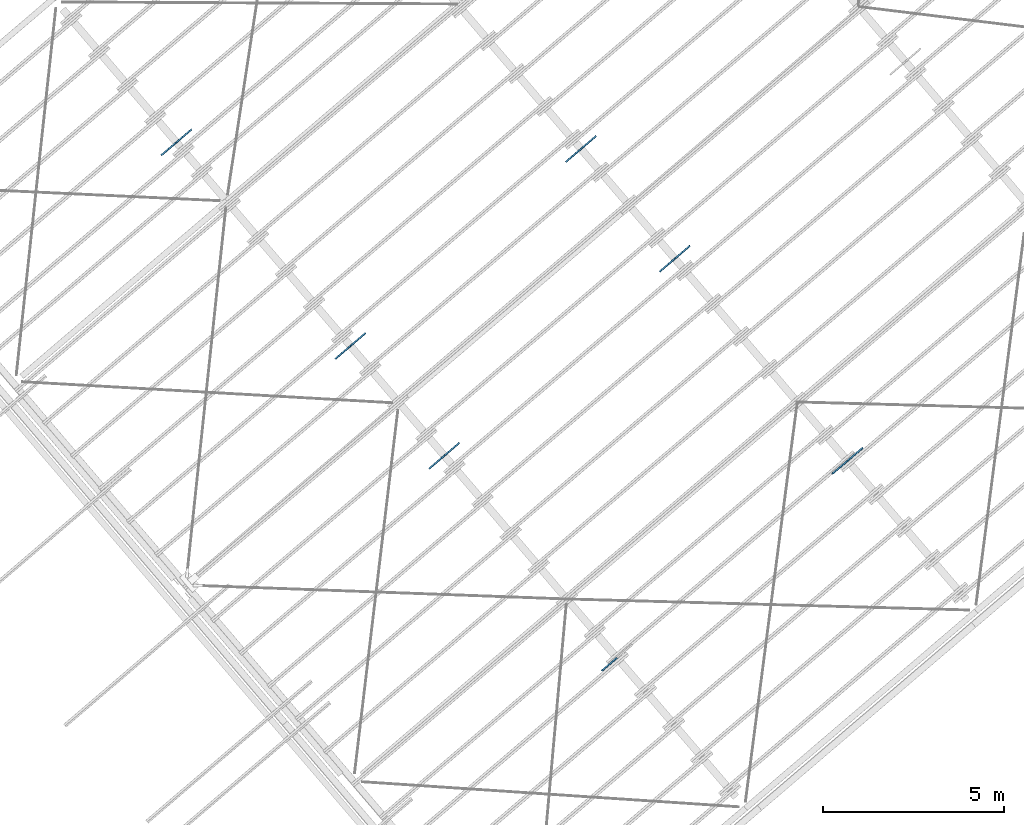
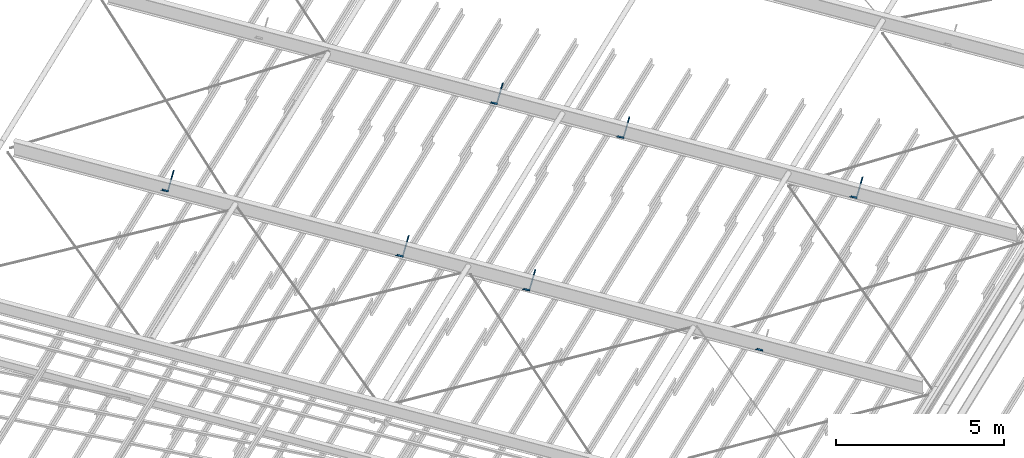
# One storey, part 22 of 25: 13 beams.
"""IFC2X3 building model written with IfcOpenShell, lengths in millimetres."""

from ifc_helpers import new_model, entity, si_unit, converted_unit, derived_unit, direction, frame, frame_2d, origin, place, context, subcontext, project, spatial, polyline, circle_curve, parameter, trimmed, segment, composite_curve, outline, extrude, clip, halfspace, type_object, element, save


model = new_model("IFC2X3")

# Units and contexts
model_context = context("Model", 3, precision=0.01, world=origin(), true_north=direction((6.123031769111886e-17, 1.0)))
body_context = subcontext(model_context, "Body", "Model", "MODEL_VIEW")
ifc_project = project(units=[si_unit("LENGTHUNIT", "METRE", prefix="MILLI"), si_unit("AREAUNIT", "SQUARE_METRE"), si_unit("VOLUMEUNIT", "CUBIC_METRE"), converted_unit("PLANEANGLEUNIT", "DEGREE", entity("IfcRatioMeasure", 0.017453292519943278), si_unit("PLANEANGLEUNIT", "RADIAN"), dimensions=[0, 0, 0, 0, 0, 0, 0]), si_unit("MASSUNIT", "GRAM", prefix="KILO"), derived_unit("MASSDENSITYUNIT", [(si_unit("MASSUNIT", "GRAM", prefix="KILO"), 1), (si_unit("LENGTHUNIT", "METRE"), -3)]), derived_unit("MOMENTOFINERTIAUNIT", [(si_unit("LENGTHUNIT", "METRE"), 4)]), si_unit("TIMEUNIT", "SECOND"), si_unit("FREQUENCYUNIT", "HERTZ"), si_unit("THERMODYNAMICTEMPERATUREUNIT", "DEGREE_CELSIUS"), derived_unit("THERMALTRANSMITTANCEUNIT", [(si_unit("MASSUNIT", "GRAM", prefix="KILO"), 1), (si_unit("THERMODYNAMICTEMPERATUREUNIT", "KELVIN"), -1), (si_unit("TIMEUNIT", "SECOND"), -3)]), derived_unit("VOLUMETRICFLOWRATEUNIT", [(si_unit("LENGTHUNIT", "METRE"), 3), (si_unit("TIMEUNIT", "SECOND"), -1)]), derived_unit("MASSFLOWRATEUNIT", [(si_unit("MASSUNIT", "GRAM", prefix="KILO"), 1), (si_unit("TIMEUNIT", "SECOND"), -1)]), derived_unit("ROTATIONALFREQUENCYUNIT", [(si_unit("TIMEUNIT", "SECOND"), -1)]), si_unit("ELECTRICCURRENTUNIT", "AMPERE"), si_unit("ELECTRICVOLTAGEUNIT", "VOLT"), si_unit("POWERUNIT", "WATT"), si_unit("FORCEUNIT", "NEWTON", prefix="KILO"), si_unit("ILLUMINANCEUNIT", "LUX"), si_unit("LUMINOUSFLUXUNIT", "LUMEN"), si_unit("LUMINOUSINTENSITYUNIT", "CANDELA"), derived_unit("USERDEFINED", [(si_unit("MASSUNIT", "GRAM", prefix="KILO"), -1), (si_unit("LENGTHUNIT", "METRE"), -2), (si_unit("TIMEUNIT", "SECOND"), 3), (si_unit("LUMINOUSFLUXUNIT", "LUMEN"), 1)]), derived_unit("SOUNDPOWERUNIT", [(si_unit("MASSUNIT", "GRAM", prefix="KILO"), 1), (si_unit("LENGTHUNIT", "METRE"), 2), (si_unit("TIMEUNIT", "SECOND"), -3)]), derived_unit("LINEARVELOCITYUNIT", [(si_unit("LENGTHUNIT", "METRE"), 1), (si_unit("TIMEUNIT", "SECOND"), -1)]), si_unit("PRESSUREUNIT", "PASCAL"), derived_unit("USERDEFINED", [(si_unit("LENGTHUNIT", "METRE"), -2), (si_unit("MASSUNIT", "GRAM", prefix="KILO"), 1), (si_unit("TIMEUNIT", "SECOND"), -2)]), derived_unit("LINEARFORCEUNIT", [(si_unit("MASSUNIT", "GRAM", prefix="KILO"), 1), (si_unit("LENGTHUNIT", "METRE"), 1), (si_unit("TIMEUNIT", "SECOND"), -2), (si_unit("LENGTHUNIT", "METRE"), -1)]), derived_unit("PLANARFORCEUNIT", [(si_unit("MASSUNIT", "GRAM", prefix="KILO"), 1), (si_unit("LENGTHUNIT", "METRE"), 1), (si_unit("TIMEUNIT", "SECOND"), -2), (si_unit("LENGTHUNIT", "METRE"), -2)])], contexts=[model_context])

# Site, building, storey
site_placement = place(None, frame((962.4174930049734, -6014.433753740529, 0.0), z_axis=(0.0, 0.0, 1.0), x_axis=(0.7601792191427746, 0.649713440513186, 0.0)))
site = spatial("IfcSite", under=ifc_project, at=site_placement, Name="Default", CompositionType="ELEMENT")
building_placement = place(site_placement, origin())
building = spatial("IfcBuilding", under=site, at=building_placement, CompositionType="ELEMENT")
storey_placement = place(building_placement, frame((0.0, 0.0, 9200.0)))
storey = spatial("IfcBuildingStorey", under=building, at=storey_placement, Name="TOP OF CEILING", CompositionType="ELEMENT", Elevation=9200.000000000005)

# Beams
beam_type = type_object("IfcBeamType", Name="ADSK_AU_EA-Equal Angles (AS 3679_1):50x50x5EA", PredefinedType="NOTDEFINED")
beam_1_placement = place(storey_placement, frame((161811.86076807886, -20517.92808212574, 2502.2460975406), z_axis=(0.6018150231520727, 0.0, 0.7986355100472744), x_axis=(0.7986355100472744, 0.0, -0.6018150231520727)))
element("IfcBeam", 1, at=beam_1_placement, inside=storey, type_object=beam_type, Name="ADSK_AU_EA-Equal Angles (AS 3679_1):50x50x5EA", ObjectType="ADSK_AU_EA-Equal Angles (AS 3679_1):50x50x5EA", context=body_context, shape_type="SweptSolid", body=[
    clip(extrude(outline(composite_curve([segment(polyline([(-31.11111111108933, -18.88888888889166), (18.888888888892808, -18.888888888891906)]), True, "CONTINUOUS"), segment(polyline([(18.88888888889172, -18.888888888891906), (18.888888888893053, 31.111111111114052)]), True, "CONTINUOUS"), segment(polyline([(18.888888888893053, 31.111111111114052), (16.888888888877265, 31.11111111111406)]), True, "CONTINUOUS"), segment(trimmed(circle_curve(frame_2d((16.88888888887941, 28.111111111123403), x_axis=(0.0, 1.0)), 2.9999999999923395), [parameter(0.0)], [parameter(90.00000000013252)], True, "PARAMETER"), True, "CONTINUOUS"), segment(polyline([(13.888888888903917, 28.11111111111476), (13.888888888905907, -7.888888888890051)]), True, "CONTINUOUS"), segment(trimmed(circle_curve(frame_2d((7.888888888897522, -7.88888888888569), x_axis=(1.0, 0.0)), 6.00000000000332), [parameter(270.0000000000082)], [parameter(0.0)], True, "PARAMETER"), False, "CONTINUOUS"), segment(polyline([(7.888888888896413, -13.888888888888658), (-28.111111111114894, -13.88888888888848)]), True, "CONTINUOUS"), segment(trimmed(circle_curve(frame_2d((-28.111111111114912, -16.8888888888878), x_axis=(0.0, 1.0)), 2.9999999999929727), [parameter(0.0)], [parameter(90.00000000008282)], True, "PARAMETER"), True, "CONTINUOUS"), segment(polyline([(-31.111111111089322, -16.888888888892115), (-31.11111111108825, -18.88888888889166)]), True, "CONTINUOUS")], self_intersect=False)), frame((0.0, 4.9888888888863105, -31.111111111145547), z_axis=(1.0, 0.0, 0.0), x_axis=(0.0, 0.0, -1.0)), (0.0, 0.0, 1.0), 697.6777025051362), halfspace(frame((697.6777025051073, 0.0, -50.0), z_axis=(0.7986355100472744, 0.0, 0.6018150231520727), x_axis=(0.0, -1.0, 0.0)), False)),
])
beam_2_placement = place(storey_placement, frame((171266.05964134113, -20517.928082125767, 2502.2460975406), z_axis=(-0.6018150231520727, 0.0, 0.7986355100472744), x_axis=(-0.7986355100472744, 0.0, -0.6018150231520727)))
element("IfcBeam", 2, at=beam_2_placement, inside=storey, type_object=beam_type, Name="ADSK_AU_EA-Equal Angles (AS 3679_1):50x50x5EA", ObjectType="ADSK_AU_EA-Equal Angles (AS 3679_1):50x50x5EA", context=body_context, shape_type="SweptSolid", body=[
    clip(extrude(outline(composite_curve([segment(polyline([(16.88888888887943, -31.11111111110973), (18.888888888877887, -31.11111111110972)]), True, "CONTINUOUS"), segment(polyline([(18.888888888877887, -31.11111111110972), (18.88888888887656, 18.88888888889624)]), True, "CONTINUOUS"), segment(polyline([(18.88888888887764, 18.88888888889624), (-31.111111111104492, 18.888888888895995)]), True, "CONTINUOUS"), segment(polyline([(-31.11111111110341, 18.888888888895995), (-31.111111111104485, 16.88888888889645)]), True, "CONTINUOUS"), segment(trimmed(circle_curve(frame_2d((-28.111111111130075, 16.88888888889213), x_axis=(-1.0, 0.0)), 2.9999999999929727), [parameter(0.0)], [parameter(90.00000000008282)], True, "PARAMETER"), True, "CONTINUOUS"), segment(polyline([(-28.111111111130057, 13.888888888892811), (7.888888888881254, 13.88888888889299)]), True, "CONTINUOUS"), segment(trimmed(circle_curve(frame_2d((7.888888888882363, 7.888888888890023), x_axis=(0.0, 1.0)), 6.00000000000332), [parameter(270.0000000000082)], [parameter(0.0)], True, "PARAMETER"), False, "CONTINUOUS"), segment(polyline([(13.888888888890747, 7.888888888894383), (13.888888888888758, -28.11111111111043)]), True, "CONTINUOUS"), segment(trimmed(circle_curve(frame_2d((16.888888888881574, -28.111111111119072), x_axis=(-1.0, 0.0)), 2.9999999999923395), [parameter(0.0)], [parameter(90.00000000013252)], True, "PARAMETER"), True, "CONTINUOUS")], self_intersect=False)), frame((0.0, -4.988888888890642, -31.111111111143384), z_axis=(1.0, 0.0, 0.0), x_axis=(0.0, 0.0, -1.0)), (0.0, 0.0, 1.0), 697.6777025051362), halfspace(frame((697.67770250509, 0.0, -50.0), z_axis=(0.7986355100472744, 0.0, 0.6018150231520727), x_axis=(0.0, -1.0, 0.0)), False)),
])
beam_3_placement = place(storey_placement, frame((170211.8607680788, -20517.928082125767, 2502.2460975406), z_axis=(0.6018150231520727, 0.0, 0.7986355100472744), x_axis=(0.7986355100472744, 0.0, -0.6018150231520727)))
element("IfcBeam", 3, at=beam_3_placement, inside=storey, type_object=beam_type, Name="ADSK_AU_EA-Equal Angles (AS 3679_1):50x50x5EA", ObjectType="ADSK_AU_EA-Equal Angles (AS 3679_1):50x50x5EA", context=body_context, shape_type="SweptSolid", body=[
    clip(extrude(outline(composite_curve([segment(polyline([(-31.111111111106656, -18.888888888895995), (18.888888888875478, -18.88888888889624)]), True, "CONTINUOUS"), segment(polyline([(18.888888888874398, -18.88888888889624), (18.888888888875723, 31.11111111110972)]), True, "CONTINUOUS"), segment(polyline([(18.888888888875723, 31.11111111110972), (16.888888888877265, 31.11111111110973)]), True, "CONTINUOUS"), segment(trimmed(circle_curve(frame_2d((16.88888888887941, 28.111111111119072), x_axis=(0.0, 1.0)), 2.9999999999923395), [parameter(0.0)], [parameter(90.00000000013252)], True, "PARAMETER"), True, "CONTINUOUS"), segment(polyline([(13.888888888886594, 28.11111111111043), (13.888888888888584, -7.888888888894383)]), True, "CONTINUOUS"), segment(trimmed(circle_curve(frame_2d((7.888888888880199, -7.888888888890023), x_axis=(1.0, 0.0)), 6.00000000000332), [parameter(270.0000000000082)], [parameter(0.0)], True, "PARAMETER"), False, "CONTINUOUS"), segment(polyline([(7.88888888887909, -13.88888888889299), (-28.11111111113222, -13.888888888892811)]), True, "CONTINUOUS"), segment(trimmed(circle_curve(frame_2d((-28.11111111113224, -16.88888888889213), x_axis=(0.0, 1.0)), 2.9999999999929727), [parameter(0.0)], [parameter(90.00000000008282)], True, "PARAMETER"), True, "CONTINUOUS"), segment(polyline([(-31.11111111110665, -16.88888888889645), (-31.111111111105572, -18.888888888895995)]), True, "CONTINUOUS")], self_intersect=False)), frame((0.0, 4.988888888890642, -31.111111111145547), z_axis=(1.0, 0.0, 0.0), x_axis=(0.0, 0.0, -1.0)), (0.0, 0.0, 1.0), 697.6777025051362), halfspace(frame((697.6777025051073, 0.0, -50.0), z_axis=(0.7986355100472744, 0.0, 0.6018150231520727), x_axis=(0.0, -1.0, 0.0)), False)),
])
beam_4_placement = place(storey_placement, frame((162866.0596413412, -1736.2280821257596, 3902.2460975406), z_axis=(-0.6018150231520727, 0.0, 0.7986355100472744), x_axis=(-0.7986355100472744, 0.0, -0.6018150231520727)))
element("IfcBeam", 4, at=beam_4_placement, inside=storey, type_object=beam_type, Name="ADSK_AU_EA-Equal Angles (AS 3679_1):50x50x5EA", ObjectType="ADSK_AU_EA-Equal Angles (AS 3679_1):50x50x5EA", context=body_context, shape_type="SweptSolid", body=[
    clip(extrude(outline(composite_curve([segment(polyline([(16.88888888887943, -31.111111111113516), (18.888888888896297, -31.11111111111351)]), True, "CONTINUOUS"), segment(polyline([(18.888888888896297, -31.11111111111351), (18.888888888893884, 18.888888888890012)]), True, "CONTINUOUS"), segment(polyline([(18.88888888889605, 18.888888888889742), (-31.111111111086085, 18.888888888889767)]), True, "CONTINUOUS"), segment(polyline([(-31.111111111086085, 18.888888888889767), (-31.11111111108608, 16.888888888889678)]), True, "CONTINUOUS"), segment(trimmed(circle_curve(frame_2d((-28.11111111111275, 16.888888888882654), x_axis=(-1.0, 0.0)), 2.999999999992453), [parameter(0.0)], [parameter(90.00000000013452)], True, "PARAMETER"), True, "CONTINUOUS"), segment(polyline([(-28.11111111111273, 13.888888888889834), (7.888888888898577, 13.888888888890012)]), True, "CONTINUOUS"), segment(trimmed(circle_curve(frame_2d((7.888888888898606, 7.8888888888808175), x_axis=(0.0, 1.0)), 6.000000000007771), [parameter(270.0000000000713)], [parameter(0.0)], True, "PARAMETER"), False, "CONTINUOUS"), segment(polyline([(13.888888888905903, 7.888888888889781), (13.88888888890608, -28.111111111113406)]), True, "CONTINUOUS"), segment(trimmed(circle_curve(frame_2d((16.888888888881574, -28.11111111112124), x_axis=(-1.0, 0.0)), 2.9999999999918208), [parameter(0.0)], [parameter(90.000000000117)], True, "PARAMETER"), True, "CONTINUOUS")], self_intersect=False)), frame((0.0, -4.988888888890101, -31.111111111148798), z_axis=(1.0, 0.0, 0.0), x_axis=(0.0, 0.0, -1.0)), (0.0, 0.0, 1.0), 697.6777025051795), halfspace(frame((697.6777025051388, 0.0, -50.0), z_axis=(0.7986355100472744, 0.0, 0.6018150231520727), x_axis=(0.0, -1.0, 0.0)), False)),
])
beam_5_placement = place(storey_placement, frame((161811.86076807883, -1736.2280821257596, 3902.2460975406), z_axis=(0.6018150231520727, 0.0, 0.7986355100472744), x_axis=(0.7986355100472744, 0.0, -0.6018150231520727)))
element("IfcBeam", 5, at=beam_5_placement, inside=storey, type_object=beam_type, Name="ADSK_AU_EA-Equal Angles (AS 3679_1):50x50x5EA", ObjectType="ADSK_AU_EA-Equal Angles (AS 3679_1):50x50x5EA", context=body_context, shape_type="SweptSolid", body=[
    clip(extrude(outline(composite_curve([segment(polyline([(-31.111111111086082, -18.888888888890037), (18.888888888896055, -18.888888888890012)]), True, "CONTINUOUS"), segment(polyline([(18.888888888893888, -18.888888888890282), (18.8888888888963, 31.11111111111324)]), True, "CONTINUOUS"), segment(polyline([(18.8888888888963, 31.11111111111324), (16.888888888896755, 31.111111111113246)]), True, "CONTINUOUS"), segment(trimmed(circle_curve(frame_2d((16.8888888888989, 28.11111111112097), x_axis=(0.0, 1.0)), 2.9999999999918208), [parameter(0.0)], [parameter(90.000000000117)], True, "PARAMETER"), True, "CONTINUOUS"), segment(polyline([(13.888888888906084, 28.111111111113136), (13.888888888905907, -7.888888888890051)]), True, "CONTINUOUS"), segment(trimmed(circle_curve(frame_2d((7.8888888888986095, -7.8888888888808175), x_axis=(1.0, 0.0)), 6.000000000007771), [parameter(270.0000000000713)], [parameter(0.0)], True, "PARAMETER"), False, "CONTINUOUS"), segment(polyline([(7.88888888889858, -13.888888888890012), (-28.11111111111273, -13.888888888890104)]), True, "CONTINUOUS"), segment(trimmed(circle_curve(frame_2d((-28.11111111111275, -16.888888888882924), x_axis=(0.0, 1.0)), 2.999999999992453), [parameter(0.0)], [parameter(90.00000000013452)], True, "PARAMETER"), True, "CONTINUOUS"), segment(polyline([(-31.111111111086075, -16.888888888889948), (-31.111111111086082, -18.888888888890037)]), True, "CONTINUOUS")], self_intersect=False)), frame((0.0, 4.988888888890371, -31.11111111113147), z_axis=(1.0, 0.0, 0.0), x_axis=(0.0, 0.0, -1.0)), (0.0, 0.0, 1.0), 697.6777025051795), halfspace(frame((697.6777025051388, 0.0, -50.0), z_axis=(0.7986355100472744, 0.0, 0.6018150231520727), x_axis=(0.0, -1.0, 0.0)), False)),
])
beam_6_placement = place(storey_placement, frame((171266.05964134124, -9155.303082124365, 3263.315060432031), z_axis=(-0.6018150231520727, 0.0, 0.7986355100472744), x_axis=(-0.7986355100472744, 0.0, -0.6018150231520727)))
element("IfcBeam", 6, at=beam_6_placement, inside=storey, type_object=beam_type, Name="ADSK_AU_EA-Equal Angles (AS 3679_1):50x50x5EA", ObjectType="ADSK_AU_EA-Equal Angles (AS 3679_1):50x50x5EA", context=body_context, shape_type="SweptSolid", body=[
    clip(extrude(outline(composite_curve([segment(polyline([(16.88888888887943, -31.111111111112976), (18.88888888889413, -31.11111111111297)]), True, "CONTINUOUS"), segment(polyline([(18.88888888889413, -31.11111111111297), (18.888888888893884, 18.888888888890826)]), True, "CONTINUOUS"), segment(polyline([(18.888888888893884, 18.888888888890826), (-31.11111111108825, 18.88888888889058)]), True, "CONTINUOUS"), segment(polyline([(-31.111111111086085, 18.88888888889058), (-31.111111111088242, 16.888888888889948)]), True, "CONTINUOUS"), segment(trimmed(circle_curve(frame_2d((-28.11111111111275, 16.888888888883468), x_axis=(-1.0, 0.0)), 2.999999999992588), [parameter(0.0)], [parameter(90.00000000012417)], True, "PARAMETER"), True, "CONTINUOUS"), segment(polyline([(-28.11111111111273, 13.888888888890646), (7.888888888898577, 13.888888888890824)]), True, "CONTINUOUS"), segment(trimmed(circle_curve(frame_2d((7.888888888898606, 7.888888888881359), x_axis=(0.0, 1.0)), 6.000000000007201), [parameter(270.0000000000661)], [parameter(0.0)], True, "PARAMETER"), False, "CONTINUOUS"), segment(polyline([(13.888888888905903, 7.888888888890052), (13.88888888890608, -28.111111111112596)]), True, "CONTINUOUS"), segment(trimmed(circle_curve(frame_2d((16.888888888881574, -28.11111111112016), x_axis=(-1.0, 0.0)), 2.9999999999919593), [parameter(0.0)], [parameter(90.00000000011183)], True, "PARAMETER"), True, "CONTINUOUS")], self_intersect=False)), frame((0.0, -4.988888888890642, -31.11111111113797), z_axis=(1.0, 0.0, 0.0), x_axis=(0.0, 0.0, -1.0)), (0.0, 0.0, 1.0), 697.6777025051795), halfspace(frame((697.6777025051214, 0.0, -50.0), z_axis=(0.7986355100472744, 0.0, 0.6018150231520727), x_axis=(0.0, -1.0, 0.0)), False)),
])
beam_7_placement = place(storey_placement, frame((170211.86076807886, -9155.303082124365, 3263.315060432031), z_axis=(0.6018150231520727, 0.0, 0.7986355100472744), x_axis=(0.7986355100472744, 0.0, -0.6018150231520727)))
element("IfcBeam", 7, at=beam_7_placement, inside=storey, type_object=beam_type, Name="ADSK_AU_EA-Equal Angles (AS 3679_1):50x50x5EA", ObjectType="ADSK_AU_EA-Equal Angles (AS 3679_1):50x50x5EA", context=body_context, shape_type="SweptSolid", body=[
    clip(extrude(outline(composite_curve([segment(polyline([(-31.111111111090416, -18.88888888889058), (18.88888888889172, -18.88888888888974)]), True, "CONTINUOUS"), segment(polyline([(18.88888888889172, -18.88888888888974), (18.888888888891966, 31.111111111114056)]), True, "CONTINUOUS"), segment(polyline([(18.888888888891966, 31.111111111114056), (16.888888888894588, 31.111111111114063)]), True, "CONTINUOUS"), segment(trimmed(circle_curve(frame_2d((16.888888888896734, 28.11111111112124), x_axis=(0.0, 1.0)), 2.9999999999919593), [parameter(0.0)], [parameter(90.00000000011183)], True, "PARAMETER"), True, "CONTINUOUS"), segment(polyline([(13.888888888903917, 28.111111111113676), (13.88888888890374, -7.888888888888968)]), True, "CONTINUOUS"), segment(trimmed(circle_curve(frame_2d((7.888888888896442, -7.888888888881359), x_axis=(1.0, 0.0)), 6.000000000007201), [parameter(270.0000000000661)], [parameter(0.0)], True, "PARAMETER"), False, "CONTINUOUS"), segment(polyline([(7.888888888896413, -13.888888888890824), (-28.111111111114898, -13.888888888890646)]), True, "CONTINUOUS"), segment(trimmed(circle_curve(frame_2d((-28.111111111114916, -16.888888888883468), x_axis=(0.0, 1.0)), 2.999999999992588), [parameter(0.0)], [parameter(90.00000000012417)], True, "PARAMETER"), True, "CONTINUOUS"), segment(polyline([(-31.11111111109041, -16.888888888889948), (-31.11111111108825, -18.88888888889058)]), True, "CONTINUOUS")], self_intersect=False)), frame((0.0, 4.988888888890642, -31.11111111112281), z_axis=(1.0, 0.0, 0.0), x_axis=(0.0, 0.0, -1.0)), (0.0, 0.0, 1.0), 697.6777025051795), halfspace(frame((697.6777025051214, 0.0, -50.0), z_axis=(0.7986355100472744, 0.0, 0.6018150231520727), x_axis=(0.0, -1.0, 0.0)), False)),
])
beam_8_placement = place(storey_placement, frame((171266.05964134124, -13155.303082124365, 2963.3150604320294), z_axis=(-0.6018150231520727, 0.0, 0.7986355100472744), x_axis=(-0.7986355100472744, 0.0, -0.6018150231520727)))
element("IfcBeam", 8, at=beam_8_placement, inside=storey, type_object=beam_type, Name="ADSK_AU_EA-Equal Angles (AS 3679_1):50x50x5EA", ObjectType="ADSK_AU_EA-Equal Angles (AS 3679_1):50x50x5EA", context=body_context, shape_type="SweptSolid", body=[
    clip(extrude(outline(composite_curve([segment(polyline([(16.888888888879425, -31.11111111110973), (18.888888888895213, -31.11111111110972)]), True, "CONTINUOUS"), segment(polyline([(18.888888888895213, -31.11111111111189), (18.8888888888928, 18.888888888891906)]), True, "CONTINUOUS"), segment(polyline([(18.888888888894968, 18.888888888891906), (-31.11111111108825, 18.88888888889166)]), True, "CONTINUOUS"), segment(polyline([(-31.111111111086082, 18.88888888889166), (-31.111111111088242, 16.888888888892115)]), True, "CONTINUOUS"), segment(trimmed(circle_curve(frame_2d((-28.11111111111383, 16.888888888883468), x_axis=(-1.0, 0.0)), 2.9999999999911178), [parameter(0.0)], [parameter(90.00000000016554)], True, "PARAMETER"), True, "CONTINUOUS"), segment(polyline([(-28.11111111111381, 13.888888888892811), (7.888888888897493, 13.88888888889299)]), True, "CONTINUOUS"), segment(trimmed(circle_curve(frame_2d((7.888888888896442, 7.888888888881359), x_axis=(0.0, 1.0)), 6.000000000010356), [parameter(270.00000000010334)], [parameter(0.0)], True, "PARAMETER"), False, "CONTINUOUS"), segment(polyline([(13.888888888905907, 7.888888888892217), (13.888888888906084, -28.11111111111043)]), True, "CONTINUOUS"), segment(trimmed(circle_curve(frame_2d((16.88888888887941, -28.111111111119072), x_axis=(-1.0, 0.0)), 2.9999999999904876), [parameter(0.0)], [parameter(90.00000000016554)], True, "PARAMETER"), True, "CONTINUOUS")], self_intersect=False)), frame((0.0, -4.9888888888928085, -31.111111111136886), z_axis=(1.0, 0.0, 0.0), x_axis=(0.0, 0.0, -1.0)), (0.0, 0.0, 1.0), 697.6777025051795), halfspace(frame((697.6777025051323, 0.0, -50.0), z_axis=(0.7986355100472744, 0.0, 0.6018150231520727), x_axis=(0.0, -1.0, 0.0)), False)),
])
beam_9_placement = place(storey_placement, frame((170211.86076807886, -13155.303082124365, 2963.3150604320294), z_axis=(0.6018150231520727, 0.0, 0.7986355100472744), x_axis=(0.7986355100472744, 0.0, -0.6018150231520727)))
element("IfcBeam", 9, at=beam_9_placement, inside=storey, type_object=beam_type, Name="ADSK_AU_EA-Equal Angles (AS 3679_1):50x50x5EA", ObjectType="ADSK_AU_EA-Equal Angles (AS 3679_1):50x50x5EA", context=body_context, shape_type="SweptSolid", body=[
    clip(extrude(outline(composite_curve([segment(polyline([(-31.111111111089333, -18.88888888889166), (18.888888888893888, -18.888888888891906)]), True, "CONTINUOUS"), segment(polyline([(18.88888888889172, -18.888888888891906), (18.888888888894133, 31.11111111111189)]), True, "CONTINUOUS"), segment(polyline([(18.888888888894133, 31.11111111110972), (16.888888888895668, 31.11111111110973)]), True, "CONTINUOUS"), segment(trimmed(circle_curve(frame_2d((16.888888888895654, 28.111111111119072), x_axis=(0.0, 1.0)), 2.9999999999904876), [parameter(0.0)], [parameter(90.00000000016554)], True, "PARAMETER"), True, "CONTINUOUS"), segment(polyline([(13.888888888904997, 28.11111111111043), (13.88888888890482, -7.888888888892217)]), True, "CONTINUOUS"), segment(trimmed(circle_curve(frame_2d((7.888888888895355, -7.888888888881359), x_axis=(1.0, 0.0)), 6.000000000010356), [parameter(270.00000000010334)], [parameter(0.0)], True, "PARAMETER"), False, "CONTINUOUS"), segment(polyline([(7.888888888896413, -13.88888888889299), (-28.111111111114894, -13.888888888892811)]), True, "CONTINUOUS"), segment(trimmed(circle_curve(frame_2d((-28.111111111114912, -16.888888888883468), x_axis=(0.0, 1.0)), 2.9999999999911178), [parameter(0.0)], [parameter(90.00000000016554)], True, "PARAMETER"), True, "CONTINUOUS"), segment(polyline([(-31.111111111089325, -16.888888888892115), (-31.111111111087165, -18.88888888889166)]), True, "CONTINUOUS")], self_intersect=False)), frame((0.0, 4.9888888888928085, -31.111111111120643), z_axis=(1.0, 0.0, 0.0), x_axis=(0.0, 0.0, -1.0)), (0.0, 0.0, 1.0), 697.6777025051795), halfspace(frame((697.6777025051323, 0.0, -50.0), z_axis=(0.7986355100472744, 0.0, 0.6018150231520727), x_axis=(0.0, -1.0, 0.0)), False)),
])
beam_10_placement = place(storey_placement, frame((162866.05964134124, -9155.303082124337, 3263.315060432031), z_axis=(-0.6018150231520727, 0.0, 0.7986355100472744), x_axis=(-0.7986355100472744, 0.0, -0.6018150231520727)))
element("IfcBeam", 10, at=beam_10_placement, inside=storey, type_object=beam_type, Name="ADSK_AU_EA-Equal Angles (AS 3679_1):50x50x5EA", ObjectType="ADSK_AU_EA-Equal Angles (AS 3679_1):50x50x5EA", context=body_context, shape_type="SweptSolid", body=[
    clip(extrude(outline(composite_curve([segment(polyline([(16.888888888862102, -31.111111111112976), (18.88888888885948, -31.11111111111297)]), True, "CONTINUOUS"), segment(polyline([(18.88888888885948, -31.11111111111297), (18.888888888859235, 18.888888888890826)]), True, "CONTINUOUS"), segment(polyline([(18.888888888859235, 18.888888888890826), (-31.111111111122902, 18.88888888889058)]), True, "CONTINUOUS"), segment(polyline([(-31.111111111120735, 18.88888888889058), (-31.111111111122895, 16.888888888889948)]), True, "CONTINUOUS"), segment(trimmed(circle_curve(frame_2d((-28.1111111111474, 16.888888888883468), x_axis=(-1.0, 0.0)), 2.999999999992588), [parameter(0.0)], [parameter(90.00000000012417)], True, "PARAMETER"), True, "CONTINUOUS"), segment(polyline([(-28.111111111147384, 13.888888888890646), (7.888888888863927, 13.888888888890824)]), True, "CONTINUOUS"), segment(trimmed(circle_curve(frame_2d((7.888888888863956, 7.888888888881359), x_axis=(0.0, 1.0)), 6.000000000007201), [parameter(270.0000000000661)], [parameter(0.0)], True, "PARAMETER"), False, "CONTINUOUS"), segment(polyline([(13.888888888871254, 7.888888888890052), (13.888888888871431, -28.111111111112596)]), True, "CONTINUOUS"), segment(trimmed(circle_curve(frame_2d((16.888888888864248, -28.11111111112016), x_axis=(-1.0, 0.0)), 2.9999999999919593), [parameter(0.0)], [parameter(90.00000000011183)], True, "PARAMETER"), True, "CONTINUOUS")], self_intersect=False)), frame((0.0, -4.988888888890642, -31.111111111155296), z_axis=(1.0, 0.0, 0.0), x_axis=(0.0, 0.0, -1.0)), (0.0, 0.0, 1.0), 697.6777025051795), halfspace(frame((697.6777025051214, 0.0, -50.0), z_axis=(0.7986355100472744, 0.0, 0.6018150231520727), x_axis=(0.0, -1.0, 0.0)), False)),
])
beam_11_placement = place(storey_placement, frame((161811.86076807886, -9155.303082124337, 3263.315060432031), z_axis=(0.6018150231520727, 0.0, 0.7986355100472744), x_axis=(0.7986355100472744, 0.0, -0.6018150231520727)))
element("IfcBeam", 11, at=beam_11_placement, inside=storey, type_object=beam_type, Name="ADSK_AU_EA-Equal Angles (AS 3679_1):50x50x5EA", ObjectType="ADSK_AU_EA-Equal Angles (AS 3679_1):50x50x5EA", context=body_context, shape_type="SweptSolid", body=[
    clip(extrude(outline(composite_curve([segment(polyline([(-31.111111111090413, -18.88888888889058), (18.88888888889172, -18.888888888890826)]), True, "CONTINUOUS"), segment(polyline([(18.88888888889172, -18.888888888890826), (18.888888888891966, 31.11111111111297)]), True, "CONTINUOUS"), segment(polyline([(18.888888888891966, 31.11111111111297), (16.888888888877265, 31.111111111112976)]), True, "CONTINUOUS"), segment(trimmed(circle_curve(frame_2d((16.88888888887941, 28.11111111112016), x_axis=(0.0, 1.0)), 2.9999999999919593), [parameter(0.0)], [parameter(90.00000000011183)], True, "PARAMETER"), True, "CONTINUOUS"), segment(polyline([(13.888888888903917, 28.111111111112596), (13.88888888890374, -7.888888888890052)]), True, "CONTINUOUS"), segment(trimmed(circle_curve(frame_2d((7.888888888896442, -7.888888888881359), x_axis=(1.0, 0.0)), 6.000000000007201), [parameter(270.0000000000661)], [parameter(0.0)], True, "PARAMETER"), False, "CONTINUOUS"), segment(polyline([(7.888888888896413, -13.888888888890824), (-28.111111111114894, -13.888888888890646)]), True, "CONTINUOUS"), segment(trimmed(circle_curve(frame_2d((-28.111111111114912, -16.888888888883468), x_axis=(0.0, 1.0)), 2.999999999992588), [parameter(0.0)], [parameter(90.00000000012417)], True, "PARAMETER"), True, "CONTINUOUS"), segment(polyline([(-31.111111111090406, -16.888888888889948), (-31.11111111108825, -18.88888888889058)]), True, "CONTINUOUS")], self_intersect=False)), frame((0.0, 4.988888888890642, -31.111111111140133), z_axis=(1.0, 0.0, 0.0), x_axis=(0.0, 0.0, -1.0)), (0.0, 0.0, 1.0), 697.6777025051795), halfspace(frame((697.6777025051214, 0.0, -50.0), z_axis=(0.7986355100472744, 0.0, 0.6018150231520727), x_axis=(0.0, -1.0, 0.0)), False)),
])
beam_12_placement = place(storey_placement, frame((162866.05964134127, -13155.30308212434, 2963.3150604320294), z_axis=(-0.6018150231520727, 0.0, 0.7986355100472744), x_axis=(-0.7986355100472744, 0.0, -0.6018150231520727)))
element("IfcBeam", 12, at=beam_12_placement, inside=storey, type_object=beam_type, Name="ADSK_AU_EA-Equal Angles (AS 3679_1):50x50x5EA", ObjectType="ADSK_AU_EA-Equal Angles (AS 3679_1):50x50x5EA", context=body_context, shape_type="SweptSolid", body=[
    clip(extrude(outline(composite_curve([segment(polyline([(16.888888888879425, -31.111111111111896), (18.88888888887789, -31.11111111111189)]), True, "CONTINUOUS"), segment(polyline([(18.88888888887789, -31.111111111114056), (18.888888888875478, 18.88888888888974)]), True, "CONTINUOUS"), segment(polyline([(18.888888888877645, 18.88888888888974), (-31.111111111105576, 18.888888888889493)]), True, "CONTINUOUS"), segment(polyline([(-31.11111111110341, 18.888888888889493), (-31.11111111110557, 16.888888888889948)]), True, "CONTINUOUS"), segment(trimmed(circle_curve(frame_2d((-28.111111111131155, 16.8888888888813), x_axis=(-1.0, 0.0)), 2.9999999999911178), [parameter(0.0)], [parameter(90.00000000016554)], True, "PARAMETER"), True, "CONTINUOUS"), segment(polyline([(-28.111111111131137, 13.888888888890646), (7.88888888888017, 13.888888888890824)]), True, "CONTINUOUS"), segment(trimmed(circle_curve(frame_2d((7.888888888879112, 7.888888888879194), x_axis=(0.0, 1.0)), 6.000000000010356), [parameter(270.00000000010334)], [parameter(0.0)], True, "PARAMETER"), False, "CONTINUOUS"), segment(polyline([(13.888888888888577, 7.888888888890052), (13.888888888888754, -28.111111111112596)]), True, "CONTINUOUS"), segment(trimmed(circle_curve(frame_2d((16.88888888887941, -28.11111111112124), x_axis=(-1.0, 0.0)), 2.9999999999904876), [parameter(0.0)], [parameter(90.00000000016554)], True, "PARAMETER"), True, "CONTINUOUS")], self_intersect=False)), frame((0.0, -4.988888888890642, -31.111111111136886), z_axis=(1.0, 0.0, 0.0), x_axis=(0.0, 0.0, -1.0)), (0.0, 0.0, 1.0), 697.6777025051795), halfspace(frame((697.6777025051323, 0.0, -50.0), z_axis=(0.7986355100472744, 0.0, 0.6018150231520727), x_axis=(0.0, -1.0, 0.0)), False)),
])
beam_13_placement = place(storey_placement, frame((161811.86076807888, -13155.30308212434, 2963.3150604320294), z_axis=(0.6018150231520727, 0.0, 0.7986355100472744), x_axis=(0.7986355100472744, 0.0, -0.6018150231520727)))
element("IfcBeam", 13, at=beam_13_placement, inside=storey, type_object=beam_type, Name="ADSK_AU_EA-Equal Angles (AS 3679_1):50x50x5EA", ObjectType="ADSK_AU_EA-Equal Angles (AS 3679_1):50x50x5EA", context=body_context, shape_type="SweptSolid", body=[
    clip(extrude(outline(composite_curve([segment(polyline([(-31.111111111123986, -18.88888888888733), (18.888888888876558, -18.888888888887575)]), True, "CONTINUOUS"), segment(polyline([(18.88888888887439, -18.888888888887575), (18.888888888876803, 31.111111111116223)]), True, "CONTINUOUS"), segment(polyline([(18.888888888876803, 31.111111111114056), (16.888888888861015, 31.111111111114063)]), True, "CONTINUOUS"), segment(trimmed(circle_curve(frame_2d((16.888888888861, 28.111111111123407), x_axis=(0.0, 1.0)), 2.9999999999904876), [parameter(0.0)], [parameter(90.00000000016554)], True, "PARAMETER"), True, "CONTINUOUS"), segment(polyline([(13.888888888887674, 28.111111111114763), (13.888888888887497, -7.8888888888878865)]), True, "CONTINUOUS"), segment(trimmed(circle_curve(frame_2d((7.888888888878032, -7.8888888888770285), x_axis=(1.0, 0.0)), 6.000000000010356), [parameter(270.00000000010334)], [parameter(0.0)], True, "PARAMETER"), False, "CONTINUOUS"), segment(polyline([(7.888888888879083, -13.888888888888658), (-28.11111111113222, -13.88888888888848)]), True, "CONTINUOUS"), segment(trimmed(circle_curve(frame_2d((-28.11111111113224, -16.888888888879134), x_axis=(0.0, 1.0)), 2.9999999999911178), [parameter(0.0)], [parameter(90.00000000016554)], True, "PARAMETER"), True, "CONTINUOUS"), segment(polyline([(-31.11111111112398, -16.888888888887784), (-31.11111111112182, -18.88888888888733)]), True, "CONTINUOUS")], self_intersect=False)), frame((0.0, 4.988888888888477, -31.111111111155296), z_axis=(1.0, 0.0, 0.0), x_axis=(0.0, 0.0, -1.0)), (0.0, 0.0, 1.0), 697.6777025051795), halfspace(frame((697.6777025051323, 0.0, -50.0), z_axis=(0.7986355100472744, 0.0, 0.6018150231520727), x_axis=(0.0, -1.0, 0.0)), False)),
])

save(model, "model.ifc")
